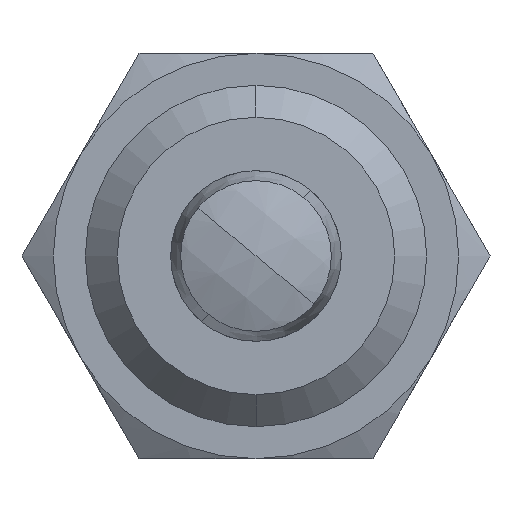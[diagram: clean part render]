
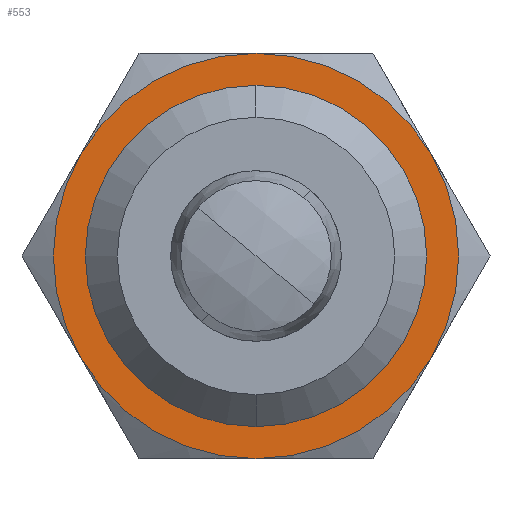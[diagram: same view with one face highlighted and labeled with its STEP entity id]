
A CAD part, front view. The second image highlights one B-rep face of the part: STEP entity #553.
In plain terms, the highlighted planar face has unit normal (0, -1, 0).
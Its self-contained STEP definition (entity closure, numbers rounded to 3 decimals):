
#483 = VERTEX_POINT ( 'NONE', #2350 ) ;
#486 = EDGE_CURVE ( 'NONE', #483, #490, #2345, .T. ) ;
#490 = VERTEX_POINT ( 'NONE', #2338 ) ;
#535 = EDGE_LOOP ( 'NONE', ( #574, #563, #569, #560, #571, #599 ) ) ;
#540 = EDGE_CURVE ( 'NONE', #490, #483, #2479, .T. ) ;
#548 = ORIENTED_EDGE ( 'NONE', *, *, #540, .T. ) ;
#549 = EDGE_LOOP ( 'NONE', ( #550, #548 ) ) ;
#550 = ORIENTED_EDGE ( 'NONE', *, *, #486, .T. ) ;
#553 = ADVANCED_FACE ( 'NONE', ( #2509, #2508 ), #2507, .F. ) ;
#558 = EDGE_CURVE ( 'NONE', #567, #570, #2505, .T. ) ;
#560 = ORIENTED_EDGE ( 'NONE', *, *, #568, .F. ) ;
#561 = VERTEX_POINT ( 'NONE', #2493 ) ;
#562 = VERTEX_POINT ( 'NONE', #2492 ) ;
#563 = ORIENTED_EDGE ( 'NONE', *, *, #566, .F. ) ;
#564 = VERTEX_POINT ( 'NONE', #2491 ) ;
#566 = EDGE_CURVE ( 'NONE', #570, #573, #2490, .T. ) ;
#567 = VERTEX_POINT ( 'NONE', #2485 ) ;
#568 = EDGE_CURVE ( 'NONE', #564, #567, #2484, .T. ) ;
#569 = ORIENTED_EDGE ( 'NONE', *, *, #558, .F. ) ;
#570 = VERTEX_POINT ( 'NONE', #2545 ) ;
#571 = ORIENTED_EDGE ( 'NONE', *, *, #5077, .T. ) ;
#572 = EDGE_CURVE ( 'NONE', #573, #562, #2544, .T. ) ;
#573 = VERTEX_POINT ( 'NONE', #2539 ) ;
#574 = ORIENTED_EDGE ( 'NONE', *, *, #572, .F. ) ;
#585 = EDGE_CURVE ( 'NONE', #562, #561, #2523, .T. ) ;
#599 = ORIENTED_EDGE ( 'NONE', *, *, #585, .F. ) ;
#2338 = CARTESIAN_POINT ( 'NONE',  ( 0., 0., -8. ) ) ;
#2341 = DIRECTION ( 'NONE',  ( 0., 0., 1. ) ) ;
#2342 = DIRECTION ( 'NONE',  ( 0., 1., 0. ) ) ;
#2343 = CARTESIAN_POINT ( 'NONE',  ( 0., 0., 0. ) ) ;
#2344 = AXIS2_PLACEMENT_3D ( 'NONE', #2343, #2342, #2341 ) ;
#2345 = CIRCLE ( 'NONE', #2344, 8. ) ;
#2350 = CARTESIAN_POINT ( 'NONE',  ( 0., 0., 8. ) ) ;
#2475 = DIRECTION ( 'NONE',  ( 0., 0., 1. ) ) ;
#2476 = DIRECTION ( 'NONE',  ( 0., 1., 0. ) ) ;
#2477 = CARTESIAN_POINT ( 'NONE',  ( 0., 0., 0. ) ) ;
#2478 = AXIS2_PLACEMENT_3D ( 'NONE', #2477, #2476, #2475 ) ;
#2479 = CIRCLE ( 'NONE', #2478, 8. ) ;
#2482 = CARTESIAN_POINT ( 'NONE',  ( 0., 0., 0. ) ) ;
#2483 = AXIS2_PLACEMENT_3D ( 'NONE', #2482, #2547, #2546 ) ;
#2484 = CIRCLE ( 'NONE', #2483, 9.5 ) ;
#2485 = CARTESIAN_POINT ( 'NONE',  ( -8.227, 0., -4.75 ) ) ;
#2486 = DIRECTION ( 'NONE',  ( 0., 0., 1. ) ) ;
#2487 = DIRECTION ( 'NONE',  ( 0., 1., 0. ) ) ;
#2488 = CARTESIAN_POINT ( 'NONE',  ( 0., 0., 0. ) ) ;
#2489 = AXIS2_PLACEMENT_3D ( 'NONE', #2488, #2487, #2486 ) ;
#2490 = CIRCLE ( 'NONE', #2489, 9.5 ) ;
#2491 = CARTESIAN_POINT ( 'NONE',  ( 0., 0., -9.5 ) ) ;
#2492 = CARTESIAN_POINT ( 'NONE',  ( 8.227, 0., 4.75 ) ) ;
#2493 = CARTESIAN_POINT ( 'NONE',  ( 8.227, 0., -4.75 ) ) ;
#2498 = DIRECTION ( 'NONE',  ( 0., 0., 1. ) ) ;
#2499 = DIRECTION ( 'NONE',  ( 0., 1., 0. ) ) ;
#2500 = CARTESIAN_POINT ( 'NONE',  ( 0., 0., 0. ) ) ;
#2501 = AXIS2_PLACEMENT_3D ( 'NONE', #2500, #2499, #2498 ) ;
#2502 = DIRECTION ( 'NONE',  ( 0., 0., 1. ) ) ;
#2503 = DIRECTION ( 'NONE',  ( 0., 1., 0. ) ) ;
#2504 = CARTESIAN_POINT ( 'NONE',  ( 5.485, 0., -9.5 ) ) ;
#2505 = CIRCLE ( 'NONE', #2501, 9.5 ) ;
#2506 = AXIS2_PLACEMENT_3D ( 'NONE', #2504, #2503, #2502 ) ;
#2507 = PLANE ( 'NONE',  #2506 ) ;
#2508 = FACE_OUTER_BOUND ( 'NONE', #535, .T. ) ;
#2509 = FACE_BOUND ( 'NONE', #549, .T. ) ;
#2515 = DIRECTION ( 'NONE',  ( 0., 0., 1. ) ) ;
#2516 = DIRECTION ( 'NONE',  ( 0., 1., 0. ) ) ;
#2517 = CARTESIAN_POINT ( 'NONE',  ( 0., 0., 0. ) ) ;
#2518 = AXIS2_PLACEMENT_3D ( 'NONE', #2517, #2516, #2515 ) ;
#2523 = CIRCLE ( 'NONE', #2518, 9.5 ) ;
#2539 = CARTESIAN_POINT ( 'NONE',  ( 0., 0., 9.5 ) ) ;
#2540 = DIRECTION ( 'NONE',  ( 0., 0., 1. ) ) ;
#2541 = DIRECTION ( 'NONE',  ( 0., 1., 0. ) ) ;
#2542 = CARTESIAN_POINT ( 'NONE',  ( 0., 0., 0. ) ) ;
#2543 = AXIS2_PLACEMENT_3D ( 'NONE', #2542, #2541, #2540 ) ;
#2544 = CIRCLE ( 'NONE', #2543, 9.5 ) ;
#2545 = CARTESIAN_POINT ( 'NONE',  ( -8.227, 0., 4.75 ) ) ;
#2546 = DIRECTION ( 'NONE',  ( 0., 0., 1. ) ) ;
#2547 = DIRECTION ( 'NONE',  ( 0., 1., 0. ) ) ;
#4363 = DIRECTION ( 'NONE',  ( 0., 0., -1. ) ) ;
#4364 = DIRECTION ( 'NONE',  ( 0., -1., 0. ) ) ;
#4365 = CARTESIAN_POINT ( 'NONE',  ( 0., 0., 0. ) ) ;
#4366 = AXIS2_PLACEMENT_3D ( 'NONE', #4365, #4364, #4363 ) ;
#4367 = CIRCLE ( 'NONE', #4366, 9.5 ) ;
#5077 = EDGE_CURVE ( 'NONE', #564, #561, #4367, .T. ) ;
